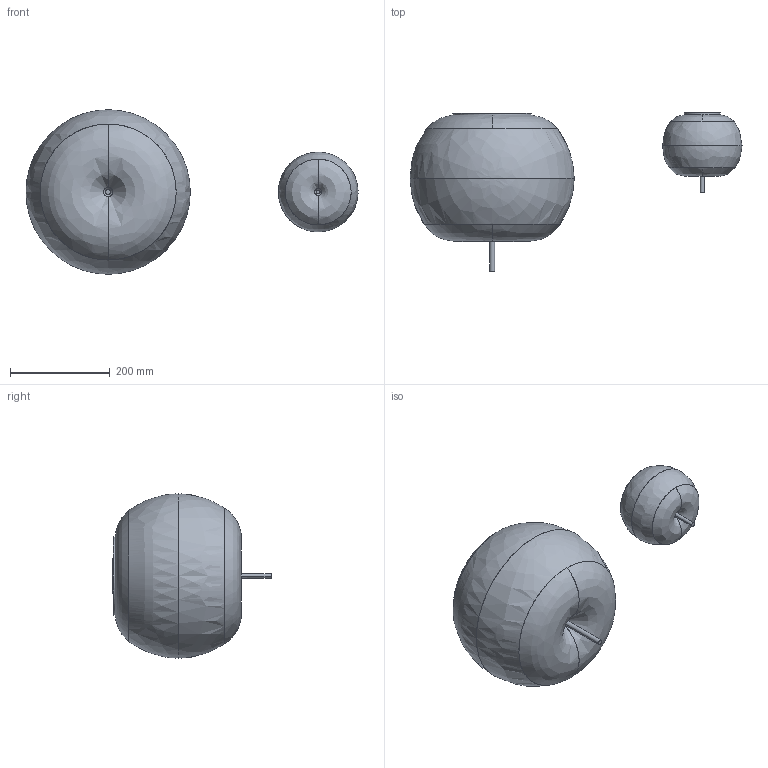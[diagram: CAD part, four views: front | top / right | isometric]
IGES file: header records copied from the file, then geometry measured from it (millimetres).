
Global section: file name: \\Srvad\ufficio tecnico\Alberto Di Felice\3D per sito\KUSHI CEILING.igs; native system: Rhinoceros ( Apr  1 2010 ); preprocessor: Trout Lake IGES 012 Apr  1 2010; date: 160414.092940; units: millimetre
Bounding box: 667.03 x 317.85 x 330 mm (x, y, z)
Surface area: 415348.5 mm2 (no closed solid volume)
Topology: 0 solids, 0 shells, 28 faces, 1233 edges, 1225 vertices
Faces by surface type: bspline 28
